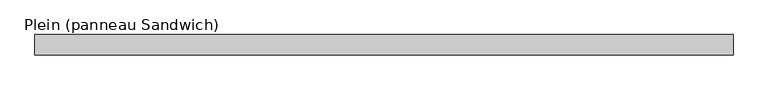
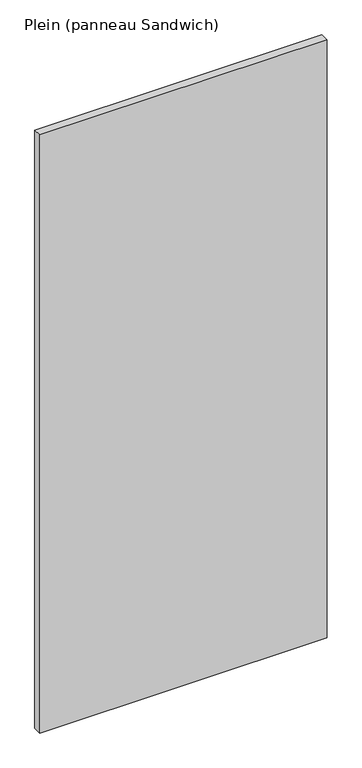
"""IFC4 building model written with IfcOpenShell, lengths in millimetres: plate geometry, Plein (panneau Sandwich)."""

import ifcopenshell
import ifcopenshell.guid

model = None  # the IFC model being written
_history = None  # IfcOwnerHistory: only IFC2X3 demands one
_inside = {}  # id of a spatial element -> (the spatial element, [elements in it])
_under = {}  # id of a project, library or spatial element -> (it, [spatial elements below it])
_declared = {}  # id of a project -> (the project, [libraries it declares])
_typed = {}  # id of a type object -> (the type object, [elements of that type])
_made_of = {}  # id of a material, layer set ... -> (it, [elements and type objects made of it])


def new_model(schema):
    """Start an empty IFC model of exactly this schema.

    Asked for "IFC4X3", IfcOpenShell would pick the latest addendum, in which some entities
    have other attributes; the version numbers below select the first issue.
    IFC2X3 requires an IfcOwnerHistory on every rooted entity: one is made here for all.
    """
    global model, _history
    if schema == "IFC4X3":
        model = ifcopenshell.file(schema_version=(4, 3, 0, 0))
    else:
        model = ifcopenshell.file(schema=schema)
    _inside.clear()
    _under.clear()
    _declared.clear()
    _typed.clear()
    _made_of.clear()
    _history = None
    if model.schema == "IFC2X3":
        org = make("IfcOrganization", Name="unknown")
        user = make(
            "IfcPersonAndOrganization",
            ThePerson=make("IfcPerson", FamilyName="unknown"),
            TheOrganization=org,
        )
        app = make(
            "IfcApplication",
            ApplicationDeveloper=org,
            Version="unknown",
            ApplicationFullName="unknown",
            ApplicationIdentifier="unknown",
        )
        _history = make(
            "IfcOwnerHistory",
            OwningUser=user,
            OwningApplication=app,
            ChangeAction="ADDED",
            CreationDate=0,
        )
    return model


def make(cls, **values):
    """One entity of the class cls with the attributes given. An attribute that is None is left unset."""
    return model.create_entity(
        cls, **{name: value for name, value in values.items() if value is not None}
    )


def rooted(cls, **values):
    """An entity with a GlobalId (a new one), such as an element, a storey or a relation."""
    return make(cls, GlobalId=ifcopenshell.guid.new(), OwnerHistory=_history, **values)


def si_unit(unit_type, name, prefix=None):
    """IfcSIUnit, for example si_unit("LENGTHUNIT", "METRE", prefix="MILLI")."""
    return make("IfcSIUnit", UnitType=unit_type, Prefix=prefix, Name=name)


def assignment(units):
    """IfcUnitAssignment: the units of a project."""
    return None if units is None else make("IfcUnitAssignment", Units=units)


def point(xyz):
    """IfcCartesianPoint."""
    return None if xyz is None else make("IfcCartesianPoint", Coordinates=xyz)


def direction(xyz):
    """IfcDirection."""
    return None if xyz is None else make("IfcDirection", DirectionRatios=xyz)


def frame(location, z_axis=None, x_axis=None):
    """IfcAxis2Placement3D, a coordinate frame: its origin and axes. An axis left out is left unset."""
    return make(
        "IfcAxis2Placement3D",
        Location=point(location),
        Axis=direction(z_axis),
        RefDirection=direction(x_axis),
    )


def origin():
    """The frame at (0, 0, 0) with its axes left unset."""
    return frame((0.0, 0.0, 0.0))


def origin_with_axes():
    """The frame at (0, 0, 0) with the z axis (0, 0, 1) and the x axis (1, 0, 0) written out."""
    return frame((0.0, 0.0, 0.0), z_axis=(0.0, 0.0, 1.0), x_axis=(1.0, 0.0, 0.0))


def place(relative_to, where):
    """IfcLocalPlacement: puts the frame where relative to a parent placement (None: the world)."""
    return make(
        "IfcLocalPlacement", PlacementRelTo=relative_to, RelativePlacement=where
    )


def context(
    kind, dimensions, precision=None, world=None, true_north=None, identifier=None
):
    """IfcGeometricRepresentationContext, for example the 3D "Model" context."""
    return make(
        "IfcGeometricRepresentationContext",
        ContextIdentifier=identifier,
        ContextType=kind,
        CoordinateSpaceDimension=dimensions,
        Precision=precision,
        WorldCoordinateSystem=world,
        TrueNorth=true_north,
    )


def project(units=None, contexts=None):
    """IfcProject with its units and contexts."""
    return rooted(
        "IfcProject",
        Name="project",
        RepresentationContexts=contexts,
        UnitsInContext=assignment(units),
    )


def spatial(cls, under=None, at=None, **own):
    """A site, building, storey or space (cls), placed at a placement, below another one or the project."""
    s = rooted(cls, ObjectPlacement=at, **own)
    if under is not None:
        _under.setdefault(under.id(), (under, []))[1].append(s)
    return s


def polyline(points):
    """IfcPolyline through the points."""
    return make("IfcPolyline", Points=[point(p) for p in points])


def outline(outer, holes=None, kind="AREA"):
    """IfcArbitraryClosedProfileDef: a profile drawn as a closed curve; with holes, ...WithVoids."""
    if holes is None:
        return make("IfcArbitraryClosedProfileDef", ProfileType=kind, OuterCurve=outer)
    return make(
        "IfcArbitraryProfileDefWithVoids",
        ProfileType=kind,
        OuterCurve=outer,
        InnerCurves=holes,
    )


def extrude(swept, where, along, depth):
    """IfcExtrudedAreaSolid: the profile swept, set in the frame where, extruded along a direction by depth."""
    return make(
        "IfcExtrudedAreaSolid",
        SweptArea=swept,
        Position=where,
        ExtrudedDirection=direction(along),
        Depth=depth,
    )


def shape(context_of_items, identifier, shape_type, items):
    """IfcShapeRepresentation: the items that make up one representation, for example the "Body"."""
    return make(
        "IfcShapeRepresentation",
        ContextOfItems=context_of_items,
        RepresentationIdentifier=identifier,
        RepresentationType=shape_type,
        Items=items,
    )


def source(mapping_origin, context_of_items, identifier, shape_type, items):
    """IfcRepresentationMap: a shape defined once, which mapped items show again and again."""
    return make(
        "IfcRepresentationMap",
        MappingOrigin=mapping_origin,
        MappedRepresentation=shape(context_of_items, identifier, shape_type, items),
    )


def transform(
    local_origin,
    x_axis=None,
    y_axis=None,
    z_axis=None,
    scale=None,
    scale2=None,
    scale3=None,
    uniform=True,
):
    """IfcCartesianTransformationOperator3D, or its non-uniform kind. x_axis, y_axis, z_axis: its Axis1, 2, 3."""
    if uniform:
        return make(
            "IfcCartesianTransformationOperator3D",
            Axis1=direction(x_axis),
            Axis2=direction(y_axis),
            LocalOrigin=point(local_origin),
            Scale=scale,
            Axis3=direction(z_axis),
        )
    return make(
        "IfcCartesianTransformationOperator3DnonUniform",
        Axis1=direction(x_axis),
        Axis2=direction(y_axis),
        LocalOrigin=point(local_origin),
        Scale=scale,
        Axis3=direction(z_axis),
        Scale2=scale2,
        Scale3=scale3,
    )


def mapped(mapping_source, mapping_target):
    """IfcMappedItem: shows the shape of a source again, moved by a transform."""
    return make(
        "IfcMappedItem", MappingSource=mapping_source, MappingTarget=mapping_target
    )


def made_of(thing, what):
    """Note that an element or type object is made of a material, layer set ...; save() writes the relation."""
    if what is not None:
        _made_of.setdefault(what.id(), (what, []))[1].append(thing)
    return thing


def element(
    cls,
    number,
    at=None,
    inside=None,
    cuts=None,
    type_object=None,
    material=None,
    context=None,
    identifier="Body",
    shape_type=None,
    held_by="IfcProductDefinitionShape",
    body=None,
    shapes=None,
    **own,
):
    """One element of the class cls, such as IfcWall. Its Tag is "e" and its number.

    at: its placement. inside: the storey or other place that contains it. cuts: it is an
    opening in that element (IfcRelVoidsElement). A single representation is given by context,
    identifier, shape_type and body (its items); several are given by shapes. held_by: the class
    of the entity that holds the representations. save() writes the other relations.
    """
    e = rooted(cls, Tag="e%d" % number, ObjectPlacement=at, **own)
    if body is not None:
        shapes = [shape(context, identifier, shape_type, body)]
    if shapes is not None:
        e.Representation = make(held_by, Representations=shapes)
    if inside is not None:
        _inside.setdefault(inside.id(), (inside, []))[1].append(e)
    if cuts is not None:
        rooted(
            "IfcRelVoidsElement", RelatingBuildingElement=cuts, RelatedOpeningElement=e
        )
    if type_object is not None:
        _typed.setdefault(type_object.id(), (type_object, []))[1].append(e)
    return made_of(e, material)


def aggregate(whole, parts):
    """IfcRelAggregates: a whole, such as a stair, and the parts it consists of."""
    return rooted("IfcRelAggregates", RelatingObject=whole, RelatedObjects=parts)


def save(model, path):
    """Write the relations noted so far, then the file.

    IfcRelAggregates (storeys below a building ...), IfcRelContainedInSpatialStructure (elements
    in a storey), IfcRelDefinesByType, IfcRelAssociatesMaterial and IfcRelDeclares: one each for
    every whole, place, type object, material and project.
    """
    for whole, parts in _under.values():
        aggregate(whole, parts)
    for where, things in _inside.values():
        rooted(
            "IfcRelContainedInSpatialStructure",
            RelatedElements=things,
            RelatingStructure=where,
        )
    for kind, things in _typed.values():
        rooted("IfcRelDefinesByType", RelatedObjects=things, RelatingType=kind)
    for what, things in _made_of.values():
        rooted("IfcRelAssociatesMaterial", RelatedObjects=things, RelatingMaterial=what)
    for by, libraries in _declared.values():
        rooted("IfcRelDeclares", RelatingContext=by, RelatedDefinitions=libraries)
    model.write(path)


def plein_panneau_sandwich_cfdbcd46(model_context):
    return source(origin(), model_context, "Body", "SweptSolid", [
        extrude(outline(polyline([(-691.3125, -20.0), (-691.3125, 20.0), (691.3125, 20.0), (691.3125, -20.0), (-691.3125, -20.0)])), origin_with_axes(), (0.0, 0.0, 1.0), 3042.625),
    ])


if __name__ == "__main__":
    model = new_model("IFC4")
    model_context = context("Model", 3, world=origin())
    ifc_project = project(units=[si_unit("LENGTHUNIT", "METRE", prefix="MILLI")], contexts=[model_context])
    site = spatial("IfcSite", under=ifc_project)
    building = spatial("IfcBuilding", under=site)
    placement = place(None, origin())
    plein_panneau_sandwich_shape = plein_panneau_sandwich_cfdbcd46(model_context)
    element("IfcPlate", 1, ObjectType="Plein (panneau Sandwich)", at=placement, inside=building, context=model_context, shape_type="MappedRepresentation", body=[
        mapped(plein_panneau_sandwich_shape, transform((0.0, 0.0, 0.0), x_axis=(1.0, 0.0, 0.0), y_axis=(0.0, 1.0, 0.0), z_axis=(0.0, 0.0, 1.0))),
    ])
    save(model, "model.ifc")
